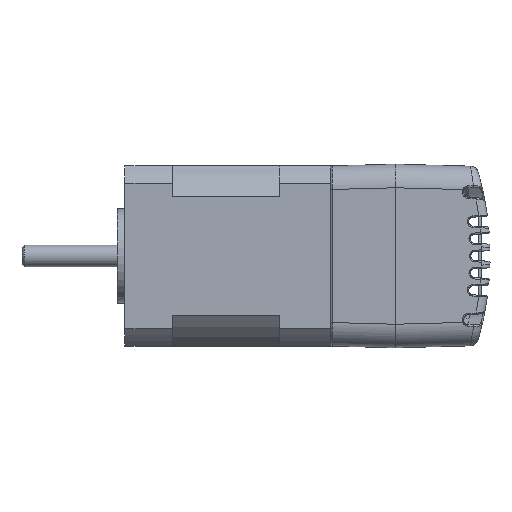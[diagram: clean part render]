
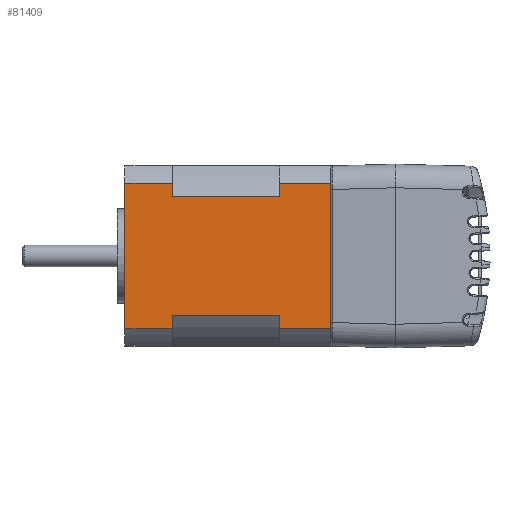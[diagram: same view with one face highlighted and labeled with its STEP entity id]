
A CAD part, front view. The second image highlights one B-rep face of the part: STEP entity #81409.
In plain terms, the highlighted planar face has unit normal (0, -1, 0).
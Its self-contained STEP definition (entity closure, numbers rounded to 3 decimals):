
#869 = LINE ( 'NONE', #60101, #78431 ) ;
#3065 = CARTESIAN_POINT ( 'NONE',  ( 4.029, 0., 48. ) ) ;
#4694 = EDGE_CURVE ( 'NONE', #81116, #76933, #47271, .T. ) ;
#4821 = VECTOR ( 'NONE', #36519, 1000. ) ;
#6146 = CARTESIAN_POINT ( 'NONE',  ( 4.029, 0., 37. ) ) ;
#7401 = CARTESIAN_POINT ( 'NONE',  ( 4.029, 0., 0. ) ) ;
#8663 = ORIENTED_EDGE ( 'NONE', *, *, #80155, .T. ) ;
#8741 = VECTOR ( 'NONE', #43535, 1000. ) ;
#9845 = VECTOR ( 'NONE', #78819, 1000. ) ;
#12958 = CARTESIAN_POINT ( 'NONE',  ( 34.766, 0., 12. ) ) ;
#15042 = VERTEX_POINT ( 'NONE', #54709 ) ;
#16087 = EDGE_CURVE ( 'NONE', #73607, #81116, #95089, .T. ) ;
#17058 = DIRECTION ( 'NONE',  ( 0., 0., -1. ) ) ;
#17472 = CARTESIAN_POINT ( 'NONE',  ( 4.029, 0., 12. ) ) ;
#17604 = LINE ( 'NONE', #6146, #55237 ) ;
#18109 = ORIENTED_EDGE ( 'NONE', *, *, #16087, .T. ) ;
#19163 = ORIENTED_EDGE ( 'NONE', *, *, #24213, .F. ) ;
#20019 = CARTESIAN_POINT ( 'NONE',  ( 7.234, 0., 37. ) ) ;
#20956 = ORIENTED_EDGE ( 'NONE', *, *, #45048, .F. ) ;
#21285 = DIRECTION ( 'NONE',  ( 1., 0., 0. ) ) ;
#22029 = EDGE_CURVE ( 'NONE', #15042, #76933, #67432, .T. ) ;
#24213 = EDGE_CURVE ( 'NONE', #77250, #45012, #58624, .T. ) ;
#24324 = CARTESIAN_POINT ( 'NONE',  ( 37.971, 0., 48. ) ) ;
#24843 = LINE ( 'NONE', #81520, #4821 ) ;
#24902 = ORIENTED_EDGE ( 'NONE', *, *, #71350, .F. ) ;
#25300 = EDGE_LOOP ( 'NONE', ( #69597, #18109, #58885, #69322, #20956, #62516, #37939, #19163, #24902, #8663, #80357, #96859 ) ) ;
#25433 = PLANE ( 'NONE',  #87557 ) ;
#26283 = CARTESIAN_POINT ( 'NONE',  ( 37.971, 0., 48. ) ) ;
#27289 = CARTESIAN_POINT ( 'NONE',  ( 4.029, 0., 48. ) ) ;
#30397 = VECTOR ( 'NONE', #32595, 1000. ) ;
#31094 = LINE ( 'NONE', #88516, #8741 ) ;
#32253 = CARTESIAN_POINT ( 'NONE',  ( 7.234, 0., 12. ) ) ;
#32595 = DIRECTION ( 'NONE',  ( 0., 0., -1. ) ) ;
#36519 = DIRECTION ( 'NONE',  ( 1., 0., 0. ) ) ;
#37607 = VERTEX_POINT ( 'NONE', #20019 ) ;
#37893 = CARTESIAN_POINT ( 'NONE',  ( 7.234, 0., 12. ) ) ;
#37939 = ORIENTED_EDGE ( 'NONE', *, *, #90338, .T. ) ;
#38922 = DIRECTION ( 'NONE',  ( 0., 0., -1. ) ) ;
#40138 = DIRECTION ( 'NONE',  ( 1., 0., 0. ) ) ;
#40566 = DIRECTION ( 'NONE',  ( -1., 0., 0. ) ) ;
#42922 = EDGE_CURVE ( 'NONE', #48787, #37607, #50151, .T. ) ;
#43535 = DIRECTION ( 'NONE',  ( 1., 0., 0. ) ) ;
#44917 = VECTOR ( 'NONE', #68115, 1000. ) ;
#44956 = VERTEX_POINT ( 'NONE', #12958 ) ;
#45012 = VERTEX_POINT ( 'NONE', #88177 ) ;
#45048 = EDGE_CURVE ( 'NONE', #44956, #15042, #31094, .T. ) ;
#46752 = LINE ( 'NONE', #91416, #66723 ) ;
#47271 = LINE ( 'NONE', #60595, #44917 ) ;
#48787 = VERTEX_POINT ( 'NONE', #37893 ) ;
#49196 = CARTESIAN_POINT ( 'NONE',  ( 4.029, 0., 37. ) ) ;
#50151 = LINE ( 'NONE', #32253, #67741 ) ;
#54650 = LINE ( 'NONE', #27289, #89855 ) ;
#54709 = CARTESIAN_POINT ( 'NONE',  ( 37.971, 0., 12. ) ) ;
#55168 = VECTOR ( 'NONE', #17058, 1000. ) ;
#55237 = VECTOR ( 'NONE', #21285, 1000. ) ;
#56382 = EDGE_CURVE ( 'NONE', #59158, #44956, #90311, .T. ) ;
#58624 = LINE ( 'NONE', #24324, #76209 ) ;
#58885 = ORIENTED_EDGE ( 'NONE', *, *, #4694, .T. ) ;
#59158 = VERTEX_POINT ( 'NONE', #75747 ) ;
#60101 = CARTESIAN_POINT ( 'NONE',  ( 4.029, 0., 12. ) ) ;
#60595 = CARTESIAN_POINT ( 'NONE',  ( 4.029, 0., 0. ) ) ;
#61105 = CARTESIAN_POINT ( 'NONE',  ( 4.029, 0., 48. ) ) ;
#62427 = DIRECTION ( 'NONE',  ( 0., 0., 1. ) ) ;
#62516 = ORIENTED_EDGE ( 'NONE', *, *, #56382, .F. ) ;
#64321 = EDGE_CURVE ( 'NONE', #97348, #37607, #17604, .T. ) ;
#66723 = VECTOR ( 'NONE', #38922, 1000. ) ;
#67432 = LINE ( 'NONE', #26283, #9845 ) ;
#67741 = VECTOR ( 'NONE', #62427, 1000. ) ;
#68115 = DIRECTION ( 'NONE',  ( 1., 0., 0. ) ) ;
#69307 = DIRECTION ( 'NONE',  ( 0., 0., -1. ) ) ;
#69322 = ORIENTED_EDGE ( 'NONE', *, *, #22029, .F. ) ;
#69597 = ORIENTED_EDGE ( 'NONE', *, *, #83717, .F. ) ;
#71350 = EDGE_CURVE ( 'NONE', #81424, #77250, #54650, .T. ) ;
#73607 = VERTEX_POINT ( 'NONE', #17472 ) ;
#75747 = CARTESIAN_POINT ( 'NONE',  ( 34.766, 0., 37. ) ) ;
#76209 = VECTOR ( 'NONE', #69307, 1000. ) ;
#76933 = VERTEX_POINT ( 'NONE', #87944 ) ;
#77250 = VERTEX_POINT ( 'NONE', #94728 ) ;
#77975 = CARTESIAN_POINT ( 'NONE',  ( 4.029, 0., 48. ) ) ;
#78431 = VECTOR ( 'NONE', #82737, 1000. ) ;
#78527 = CARTESIAN_POINT ( 'NONE',  ( 34.766, 0., 12. ) ) ;
#78819 = DIRECTION ( 'NONE',  ( 0., 0., -1. ) ) ;
#80155 = EDGE_CURVE ( 'NONE', #81424, #97348, #46752, .T. ) ;
#80357 = ORIENTED_EDGE ( 'NONE', *, *, #64321, .T. ) ;
#81116 = VERTEX_POINT ( 'NONE', #7401 ) ;
#81409 = ADVANCED_FACE ( 'NONE', ( #83017 ), #25433, .F. ) ;
#81424 = VERTEX_POINT ( 'NONE', #3065 ) ;
#81520 = CARTESIAN_POINT ( 'NONE',  ( 4.029, 0., 37. ) ) ;
#82737 = DIRECTION ( 'NONE',  ( 1., 0., 0. ) ) ;
#83017 = FACE_OUTER_BOUND ( 'NONE', #25300, .T. ) ;
#83717 = EDGE_CURVE ( 'NONE', #73607, #48787, #869, .T. ) ;
#85515 = DIRECTION ( 'NONE',  ( 0., 1., 0. ) ) ;
#87557 = AXIS2_PLACEMENT_3D ( 'NONE', #77975, #85515, #40566 ) ;
#87944 = CARTESIAN_POINT ( 'NONE',  ( 37.971, 0., 0. ) ) ;
#88177 = CARTESIAN_POINT ( 'NONE',  ( 37.971, 0., 37. ) ) ;
#88516 = CARTESIAN_POINT ( 'NONE',  ( 4.029, 0., 12. ) ) ;
#89855 = VECTOR ( 'NONE', #40138, 1000. ) ;
#90311 = LINE ( 'NONE', #78527, #30397 ) ;
#90338 = EDGE_CURVE ( 'NONE', #59158, #45012, #24843, .T. ) ;
#91416 = CARTESIAN_POINT ( 'NONE',  ( 4.029, 0., 48. ) ) ;
#94728 = CARTESIAN_POINT ( 'NONE',  ( 37.971, 0., 48. ) ) ;
#95089 = LINE ( 'NONE', #61105, #55168 ) ;
#96859 = ORIENTED_EDGE ( 'NONE', *, *, #42922, .F. ) ;
#97348 = VERTEX_POINT ( 'NONE', #49196 ) ;
